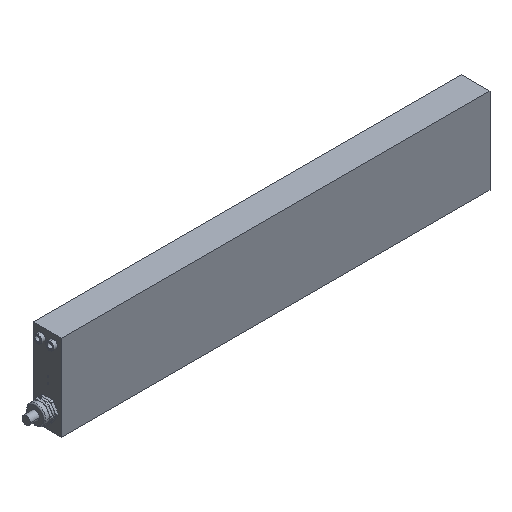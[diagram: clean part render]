
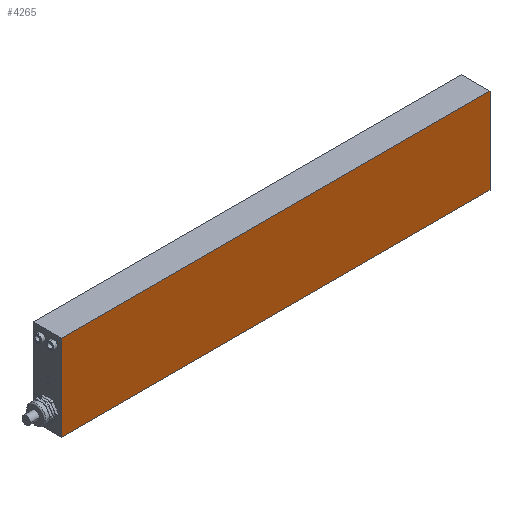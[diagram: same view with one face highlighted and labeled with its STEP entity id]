
A CAD part, isometric view. The second image highlights one B-rep face of the part: STEP entity #4265.
In plain terms, the highlighted planar face has unit normal (0, -1, 0).
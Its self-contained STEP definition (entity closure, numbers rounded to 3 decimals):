
#371 = CARTESIAN_POINT ( 'NONE',  ( 0., 0., 0. ) ) ;
#374 = DIRECTION ( 'NONE',  ( -1., 0., 0. ) ) ;
#760 = FACE_OUTER_BOUND ( 'NONE', #927, .T. ) ;
#927 = EDGE_LOOP ( 'NONE', ( #1281, #1242, #1438, #1135 ) ) ;
#1135 = ORIENTED_EDGE ( 'NONE', *, *, #2522, .T. ) ;
#1242 = ORIENTED_EDGE ( 'NONE', *, *, #2704, .T. ) ;
#1281 = ORIENTED_EDGE ( 'NONE', *, *, #2609, .T. ) ;
#1438 = ORIENTED_EDGE ( 'NONE', *, *, #2716, .T. ) ;
#2522 = EDGE_CURVE ( 'NONE', #3959, #4041, #3043, .T. ) ;
#2609 = EDGE_CURVE ( 'NONE', #4041, #3968, #3148, .T. ) ;
#2704 = EDGE_CURVE ( 'NONE', #3968, #4040, #3351, .T. ) ;
#2716 = EDGE_CURVE ( 'NONE', #4040, #3959, #3327, .T. ) ;
#3043 = LINE ( 'NONE', #371, #3054 ) ;
#3054 = VECTOR ( 'NONE', #374, 1000. ) ;
#3148 = LINE ( 'NONE', #4515, #3150 ) ;
#3150 = VECTOR ( 'NONE', #4523, 1000. ) ;
#3319 = VECTOR ( 'NONE', #4924, 1000. ) ;
#3327 = LINE ( 'NONE', #4920, #3319 ) ;
#3347 = VECTOR ( 'NONE', #4703, 1000. ) ;
#3351 = LINE ( 'NONE', #4702, #3347 ) ;
#3685 = AXIS2_PLACEMENT_3D ( 'NONE', #5371, #5391, #5392 ) ;
#3959 = VERTEX_POINT ( 'NONE', #4985 ) ;
#3968 = VERTEX_POINT ( 'NONE', #5003 ) ;
#4040 = VERTEX_POINT ( 'NONE', #5065 ) ;
#4041 = VERTEX_POINT ( 'NONE', #5066 ) ;
#4265 = ADVANCED_FACE ( 'NONE', ( #760 ), #5379, .T. ) ;
#4515 = CARTESIAN_POINT ( 'NONE',  ( 0., 0., -141. ) ) ;
#4523 = DIRECTION ( 'NONE',  ( 0., 0., -1. ) ) ;
#4702 = CARTESIAN_POINT ( 'NONE',  ( 0., 0., -141. ) ) ;
#4703 = DIRECTION ( 'NONE',  ( 1., 0., 0. ) ) ;
#4920 = CARTESIAN_POINT ( 'NONE',  ( 704., 0., -141. ) ) ;
#4924 = DIRECTION ( 'NONE',  ( 0., 0., 1. ) ) ;
#4985 = CARTESIAN_POINT ( 'NONE',  ( 704., 0., 0. ) ) ;
#5003 = CARTESIAN_POINT ( 'NONE',  ( 0., 0., -141. ) ) ;
#5065 = CARTESIAN_POINT ( 'NONE',  ( 704., 0., -141. ) ) ;
#5066 = CARTESIAN_POINT ( 'NONE',  ( 0., 0., 0. ) ) ;
#5371 = CARTESIAN_POINT ( 'NONE',  ( 0., 0., -141. ) ) ;
#5379 = PLANE ( 'NONE',  #3685 ) ;
#5391 = DIRECTION ( 'NONE',  ( 0., -1., 0. ) ) ;
#5392 = DIRECTION ( 'NONE',  ( 0., 0., -1. ) ) ;
